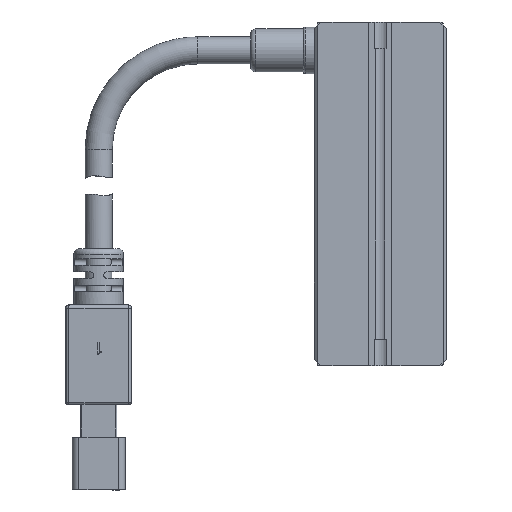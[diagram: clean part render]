
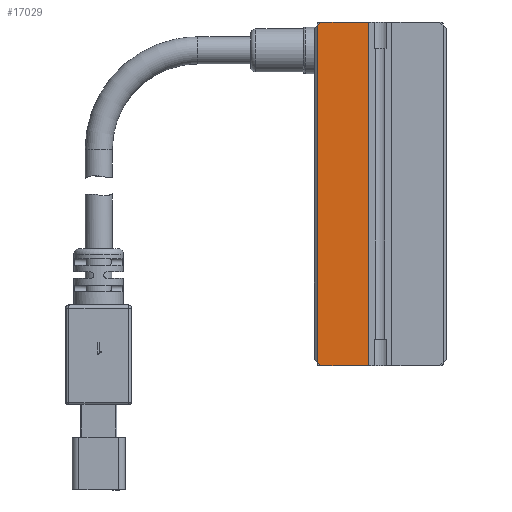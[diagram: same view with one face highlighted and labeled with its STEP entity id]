
A CAD part, front view. The second image highlights one B-rep face of the part: STEP entity #17029.
In plain terms, the highlighted planar face has unit normal (0, -1, 0).
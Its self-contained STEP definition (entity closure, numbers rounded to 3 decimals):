
#138 = EDGE_CURVE ( 'NONE', #10795, #6819, #10343, .T. ) ;
#626 = ORIENTED_EDGE ( 'NONE', *, *, #138, .T. ) ;
#690 = CARTESIAN_POINT ( 'NONE',  ( -9.5, 0., -25.5 ) ) ;
#726 = VECTOR ( 'NONE', #1069, 1000. ) ;
#775 = CARTESIAN_POINT ( 'NONE',  ( 0., 0., -26. ) ) ;
#1069 = DIRECTION ( 'NONE',  ( 0., 0., -1. ) ) ;
#1073 = VECTOR ( 'NONE', #1742, 1000. ) ;
#1476 = LINE ( 'NONE', #15276, #11559 ) ;
#1532 = EDGE_LOOP ( 'NONE', ( #12648, #16872, #626, #5007, #11051, #16720 ) ) ;
#1742 = DIRECTION ( 'NONE',  ( -1., 0., 0. ) ) ;
#2149 = EDGE_CURVE ( 'NONE', #6819, #14427, #1476, .T. ) ;
#3205 = LINE ( 'NONE', #775, #8790 ) ;
#4533 = CARTESIAN_POINT ( 'NONE',  ( -1.75, 0., -26. ) ) ;
#5007 = ORIENTED_EDGE ( 'NONE', *, *, #2149, .T. ) ;
#6081 = EDGE_CURVE ( 'NONE', #17235, #14427, #3205, .T. ) ;
#6220 = EDGE_CURVE ( 'NONE', #16475, #12072, #13096, .T. ) ;
#6275 = CARTESIAN_POINT ( 'NONE',  ( -4.5, 0., 30.5 ) ) ;
#6277 = DIRECTION ( 'NONE',  ( -1., 0., 0. ) ) ;
#6819 = VERTEX_POINT ( 'NONE', #690 ) ;
#7184 = CARTESIAN_POINT ( 'NONE',  ( -9.5, 0., 25.5 ) ) ;
#7553 = VECTOR ( 'NONE', #13004, 1000. ) ;
#8683 = CARTESIAN_POINT ( 'NONE',  ( -9., 0., -26. ) ) ;
#8790 = VECTOR ( 'NONE', #6277, 1000. ) ;
#9134 = DIRECTION ( 'NONE',  ( 0., -1., 0. ) ) ;
#9311 = CARTESIAN_POINT ( 'NONE',  ( 0., 0., 26. ) ) ;
#9963 = CARTESIAN_POINT ( 'NONE',  ( 0., 0., 26. ) ) ;
#10178 = CARTESIAN_POINT ( 'NONE',  ( -9.5, 0., 26. ) ) ;
#10343 = LINE ( 'NONE', #10178, #726 ) ;
#10578 = AXIS2_PLACEMENT_3D ( 'NONE', #9311, #9134, #17375 ) ;
#10598 = PLANE ( 'NONE',  #10578 ) ;
#10795 = VERTEX_POINT ( 'NONE', #7184 ) ;
#10815 = CARTESIAN_POINT ( 'NONE',  ( -9., 0., 26. ) ) ;
#11051 = ORIENTED_EDGE ( 'NONE', *, *, #6081, .F. ) ;
#11103 = VECTOR ( 'NONE', #12324, 1000. ) ;
#11559 = VECTOR ( 'NONE', #16813, 1000. ) ;
#12072 = VERTEX_POINT ( 'NONE', #10815 ) ;
#12324 = DIRECTION ( 'NONE',  ( 0., 0., -1. ) ) ;
#12648 = ORIENTED_EDGE ( 'NONE', *, *, #6220, .T. ) ;
#13004 = DIRECTION ( 'NONE',  ( -0.707, 0., -0.707 ) ) ;
#13096 = LINE ( 'NONE', #9963, #1073 ) ;
#14058 = LINE ( 'NONE', #6275, #7553 ) ;
#14078 = FACE_OUTER_BOUND ( 'NONE', #1532, .T. ) ;
#14427 = VERTEX_POINT ( 'NONE', #8683 ) ;
#15074 = CARTESIAN_POINT ( 'NONE',  ( -1.75, 0., 26. ) ) ;
#15221 = EDGE_CURVE ( 'NONE', #12072, #10795, #14058, .T. ) ;
#15276 = CARTESIAN_POINT ( 'NONE',  ( -30.5, 0., -4.5 ) ) ;
#15490 = EDGE_CURVE ( 'NONE', #16475, #17235, #17600, .T. ) ;
#16475 = VERTEX_POINT ( 'NONE', #17100 ) ;
#16720 = ORIENTED_EDGE ( 'NONE', *, *, #15490, .F. ) ;
#16813 = DIRECTION ( 'NONE',  ( 0.707, 0., -0.707 ) ) ;
#16872 = ORIENTED_EDGE ( 'NONE', *, *, #15221, .T. ) ;
#17029 = ADVANCED_FACE ( 'NONE', ( #14078 ), #10598, .T. ) ;
#17100 = CARTESIAN_POINT ( 'NONE',  ( -1.75, 0., 26. ) ) ;
#17235 = VERTEX_POINT ( 'NONE', #4533 ) ;
#17375 = DIRECTION ( 'NONE',  ( 1., 0., 0. ) ) ;
#17600 = LINE ( 'NONE', #15074, #11103 ) ;
